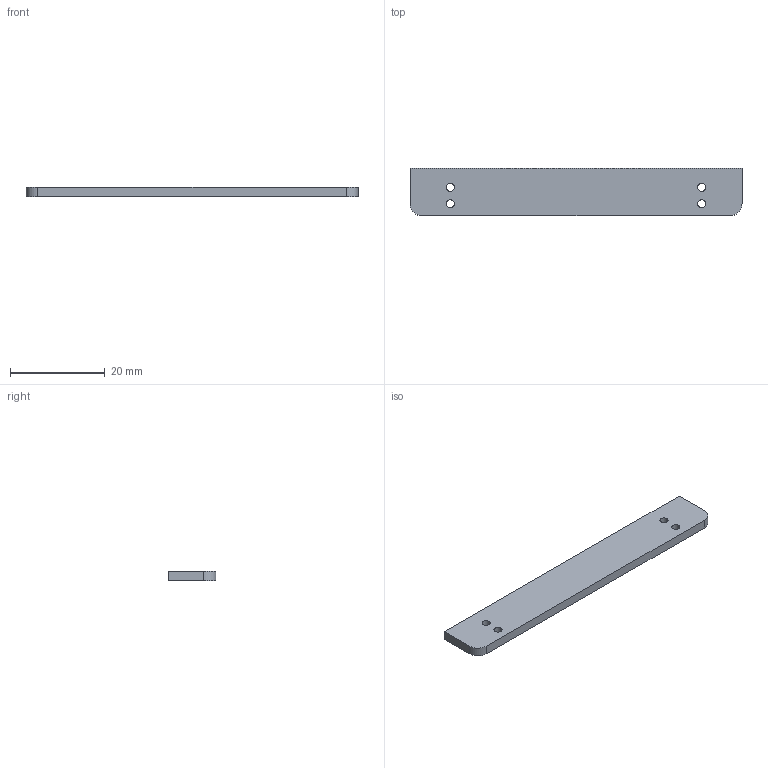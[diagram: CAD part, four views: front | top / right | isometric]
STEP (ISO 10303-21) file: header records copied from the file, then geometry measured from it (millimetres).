
FILE_DESCRIPTION(('FreeCAD Model'),'2;1');
FILE_NAME('Open CASCADE Shape Model','2025-06-23T16:46:32',(''),(''), 'Open CASCADE STEP processor 7.6','FreeCAD','Unknown');
FILE_SCHEMA(('CONFIG_CONTROL_DESIGN','SHAPE_APPEARANCE_LAYER_MIM'));
Length unit declared in the file: millimetre
Products named in the file (1): SmallCCDSupportFrameBottom
Bounding box: 70 x 10 x 2 mm (x, y, z)
Volume: 1369.8 mm3; surface area: 1728.7 mm2
Topology: 1 solids, 1 shells, 16 faces, 38 edges, 24 vertices
Faces by surface type: plane 6, cylinder 6, cone 4
Full cylindrical faces by diameter (mm): 1.7 x4
Entity records: 534 total; most frequent: DIRECTION 88, CARTESIAN_POINT 79, ORIENTED_EDGE 76, EDGE_CURVE 38, AXIS2_PLACEMENT_3D 33, FACE_BOUND 24, EDGE_LOOP 24, VERTEX_POINT 24
